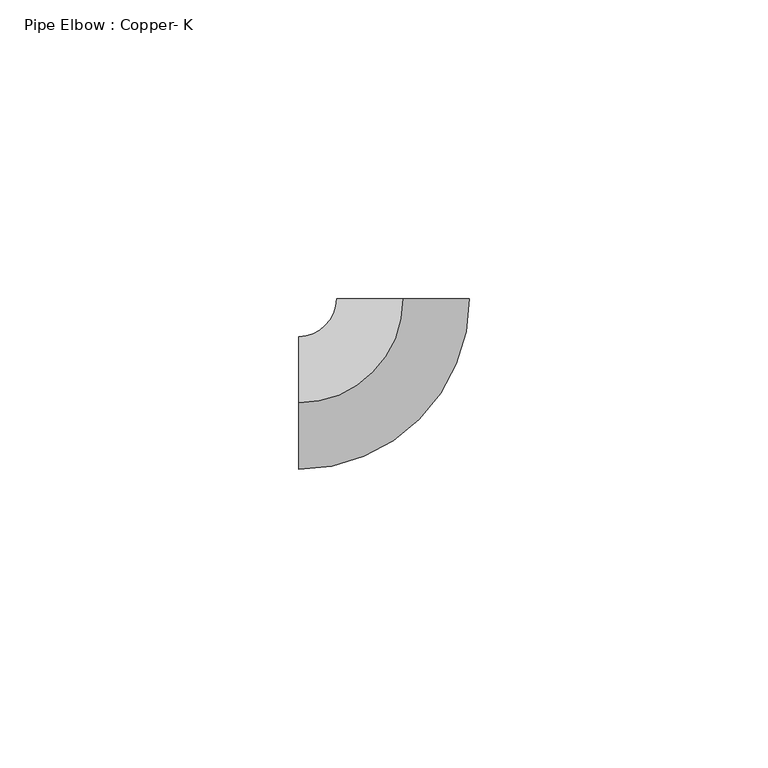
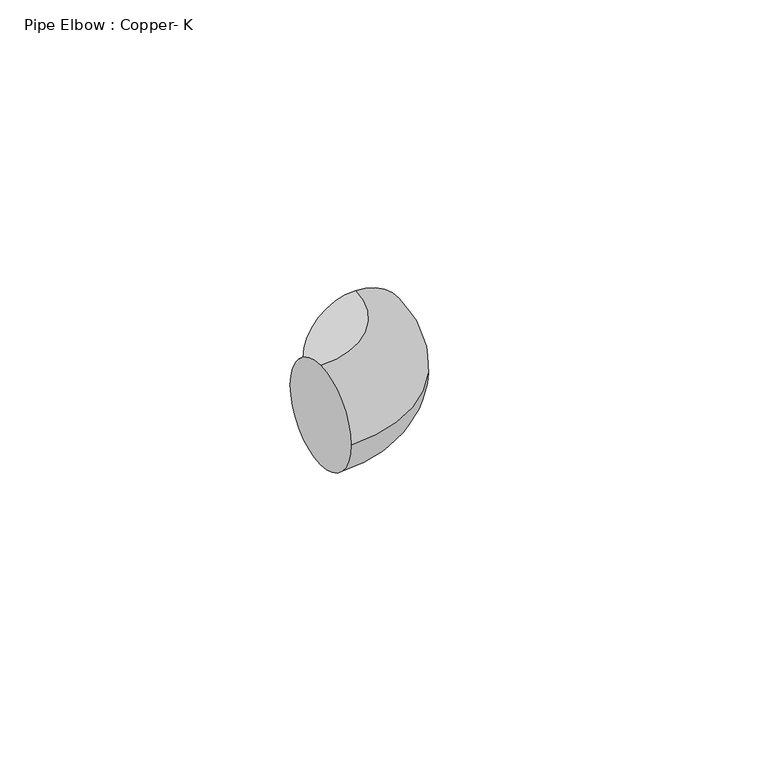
"""IFC4 building model written with IfcOpenShell, lengths in millimetres: pipe fitting geometry, Pipe Elbow : Copper- K."""

from ifc_helpers import new_model, si_unit, point, frame, origin, place, context, project, spatial, circle_curve, ellipse_curve, trimmed, source, transform, mapped, element, save
from ifc_brep_helpers import plane_surface, revolved_surface, advanced_brep


def pipe_elbow_copper_k_17cc7089(model_context):
    return source(origin(), model_context, "Body", "AdvancedBrep", [
        advanced_brep(
        [(-17.463115, 0.0, 11.1125), (-17.463115, 11.1125, 0.0), (-17.463115, 0.0, -11.1125), (-17.463115, -11.1125, 0.0), (-0.000615, 17.4631149, 11.1125), (11.111885, 17.4635063, 0.0), (-0.000615, 17.4631149, -11.1125), (-11.113115, 17.4627236, 0.0)],
        [
            (0, 1, circle_curve(frame((-17.463115, 0.0, 0.0), z_axis=(-1.0, 0.0, 0.0), x_axis=(0.0, 1.0, 0.0)), 11.1125)),
            (1, 2, circle_curve(frame((-17.463115, 0.0, 0.0), z_axis=(-1.0, 0.0, 0.0), x_axis=(0.0, 1.0, 0.0)), 11.1125)),
            (2, 3, circle_curve(frame((-17.463115, 0.0, 0.0), z_axis=(-1.0, 0.0, 0.0), x_axis=(0.0, 1.0, 0.0)), 11.1125)),
            (3, 0, circle_curve(frame((-17.463115, 0.0, 0.0), z_axis=(-1.0, 0.0, 0.0), x_axis=(0.0, 1.0, 0.0)), 11.1125)),
            (4, 5, circle_curve(frame((-0.000615, 17.4631149, 0.0), z_axis=(-3.5215053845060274e-05, 0.99999999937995, 0.0), x_axis=(-0.99999999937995, -3.5215053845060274e-05, 0.0)), 11.1125)),
            (5, 6, circle_curve(frame((-0.000615, 17.4631149, 0.0), z_axis=(-3.5215053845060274e-05, 0.99999999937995, 0.0), x_axis=(-0.99999999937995, -3.5215053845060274e-05, 0.0)), 11.1125)),
            (6, 7, circle_curve(frame((-0.000615, 17.4631149, 0.0), z_axis=(-3.5215053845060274e-05, 0.99999999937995, 0.0), x_axis=(-0.99999999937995, -3.5215053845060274e-05, 0.0)), 11.1125)),
            (7, 4, circle_curve(frame((-0.000615, 17.4631149, 0.0), z_axis=(-3.5215053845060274e-05, 0.99999999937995, 0.0), x_axis=(-0.99999999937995, -3.5215053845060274e-05, 0.0)), 11.1125)),
            (7, 1, circle_curve(frame((-17.463115, 17.4625, 0.0), z_axis=(0.0, 0.0, -1.0), x_axis=(0.0, -1.0, 0.0)), 6.35)),
            (0, 4, circle_curve(frame((-17.463115, 17.4625, 11.1125), z_axis=(0.0, 0.0, 1.0), x_axis=(0.0, -1.0, 0.0)), 17.4625)),
            (6, 2, circle_curve(frame((-17.463115, 17.4625, -11.1125), z_axis=(0.0, 0.0, -1.0), x_axis=(0.0, -1.0, 0.0)), 17.4625)),
            (5, 3, circle_curve(frame((-17.463115, 17.4625, 0.0), z_axis=(0.0, 0.0, -1.0), x_axis=(0.0, -1.0, 0.0)), 28.575)),
        ],
        [
            plane_surface(frame((-17.463115, 0.0, 0.0), z_axis=(-1.0, 0.0, 0.0), x_axis=(0.0, 0.0, 1.0))),
            plane_surface(frame((-0.000615, 17.4631149, 0.0), z_axis=(-3.5215053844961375e-05, 0.99999999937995, 0.0), x_axis=(0.0, 0.0, 1.0))),
            revolved_surface(trimmed(ellipse_curve(frame((-17.463115, 0.0, 0.0), z_axis=(-1.0, 0.0, 0.0), x_axis=(0.0, 1.0, 0.0)), 11.1125, 11.1125), [point((-17.463115, 0.0, 11.1125))], [point((-17.463115, 11.1125, 0.0))], True, "CARTESIAN"), (-17.463115, 17.4625, 0.0), (0.0, 0.0, 1.0)),
            revolved_surface(trimmed(ellipse_curve(frame((-17.463115, 0.0, 0.0), z_axis=(-1.0, 0.0, 0.0), x_axis=(0.0, 1.0, 0.0)), 11.1125, 11.1125), [point((-17.463115, 11.1125, 0.0))], [point((-17.463115, 0.0, -11.1125))], True, "CARTESIAN"), (-17.463115, 17.4625, 0.0), (0.0, 0.0, 1.0)),
            revolved_surface(trimmed(ellipse_curve(frame((-17.463115, 0.0, 0.0), z_axis=(-1.0, 0.0, 0.0), x_axis=(0.0, 1.0, 0.0)), 11.1125, 11.1125), [point((-17.463115, 0.0, -11.1125))], [point((-17.463115, -11.1125, 0.0))], True, "CARTESIAN"), (-17.463115, 17.4625, 0.0), (0.0, 0.0, 1.0)),
            revolved_surface(trimmed(ellipse_curve(frame((-17.463115, 0.0, 0.0), z_axis=(-1.0, 0.0, 0.0), x_axis=(0.0, 1.0, 0.0)), 11.1125, 11.1125), [point((-17.463115, -11.1125, 0.0))], [point((-17.463115, 0.0, 11.1125))], True, "CARTESIAN"), (-17.463115, 17.4625, 0.0), (0.0, 0.0, 1.0)),
        ],
        [
            (0, [[1, 2, 3, 4]]),
            (1, [[5, 6, 7, 8]]),
            (2, [[9, -1, 10, -8]]),
            (3, [[11, -2, -9, -7]]),
            (4, [[12, -3, -11, -6]]),
            (5, [[-10, -4, -12, -5]]),
        ],
    ),
        advanced_brep(
        [(-17.463115, 0.0, 11.1125), (-17.463115, 11.1125, 0.0), (-17.463115, 0.0, -11.1125), (-17.463115, -11.1125, 0.0), (-0.000615, 17.4631149, 11.1125), (11.111885, 17.4635063, 0.0), (-0.000615, 17.4631149, -11.1125), (-11.113115, 17.4627236, 0.0)],
        [
            (0, 1, circle_curve(frame((-17.463115, 0.0, 0.0), z_axis=(-1.0, 0.0, 0.0), x_axis=(0.0, 1.0, 0.0)), 11.1125)),
            (1, 2, circle_curve(frame((-17.463115, 0.0, 0.0), z_axis=(-1.0, 0.0, 0.0), x_axis=(0.0, 1.0, 0.0)), 11.1125)),
            (2, 3, circle_curve(frame((-17.463115, 0.0, 0.0), z_axis=(-1.0, 0.0, 0.0), x_axis=(0.0, 1.0, 0.0)), 11.1125)),
            (3, 0, circle_curve(frame((-17.463115, 0.0, 0.0), z_axis=(-1.0, 0.0, 0.0), x_axis=(0.0, 1.0, 0.0)), 11.1125)),
            (4, 5, circle_curve(frame((-0.000615, 17.4631149, 0.0), z_axis=(-3.5215053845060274e-05, 0.99999999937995, 0.0), x_axis=(-0.99999999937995, -3.5215053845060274e-05, 0.0)), 11.1125)),
            (5, 6, circle_curve(frame((-0.000615, 17.4631149, 0.0), z_axis=(-3.5215053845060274e-05, 0.99999999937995, 0.0), x_axis=(-0.99999999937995, -3.5215053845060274e-05, 0.0)), 11.1125)),
            (6, 7, circle_curve(frame((-0.000615, 17.4631149, 0.0), z_axis=(-3.5215053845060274e-05, 0.99999999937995, 0.0), x_axis=(-0.99999999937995, -3.5215053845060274e-05, 0.0)), 11.1125)),
            (7, 4, circle_curve(frame((-0.000615, 17.4631149, 0.0), z_axis=(-3.5215053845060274e-05, 0.99999999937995, 0.0), x_axis=(-0.99999999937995, -3.5215053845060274e-05, 0.0)), 11.1125)),
            (7, 1, circle_curve(frame((-17.463115, 17.4625, 0.0), z_axis=(0.0, 0.0, -1.0), x_axis=(0.0, -1.0, 0.0)), 6.35)),
            (0, 4, circle_curve(frame((-17.463115, 17.4625, 11.1125), z_axis=(0.0, 0.0, 1.0), x_axis=(0.0, -1.0, 0.0)), 17.4625)),
            (6, 2, circle_curve(frame((-17.463115, 17.4625, -11.1125), z_axis=(0.0, 0.0, -1.0), x_axis=(0.0, -1.0, 0.0)), 17.4625)),
            (5, 3, circle_curve(frame((-17.463115, 17.4625, 0.0), z_axis=(0.0, 0.0, -1.0), x_axis=(0.0, -1.0, 0.0)), 28.575)),
        ],
        [
            plane_surface(frame((-17.463115, 0.0, 0.0), z_axis=(-1.0, 0.0, 0.0), x_axis=(0.0, 0.0, 1.0))),
            plane_surface(frame((-0.000615, 17.4631149, 0.0), z_axis=(-3.5215053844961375e-05, 0.99999999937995, 0.0), x_axis=(0.0, 0.0, 1.0))),
            revolved_surface(trimmed(ellipse_curve(frame((-17.463115, 0.0, 0.0), z_axis=(-1.0, 0.0, 0.0), x_axis=(0.0, 1.0, 0.0)), 11.1125, 11.1125), [point((-17.463115, 0.0, 11.1125))], [point((-17.463115, 11.1125, 0.0))], True, "CARTESIAN"), (-17.463115, 17.4625, 0.0), (0.0, 0.0, 1.0)),
            revolved_surface(trimmed(ellipse_curve(frame((-17.463115, 0.0, 0.0), z_axis=(-1.0, 0.0, 0.0), x_axis=(0.0, 1.0, 0.0)), 11.1125, 11.1125), [point((-17.463115, 11.1125, 0.0))], [point((-17.463115, 0.0, -11.1125))], True, "CARTESIAN"), (-17.463115, 17.4625, 0.0), (0.0, 0.0, 1.0)),
            revolved_surface(trimmed(ellipse_curve(frame((-17.463115, 0.0, 0.0), z_axis=(-1.0, 0.0, 0.0), x_axis=(0.0, 1.0, 0.0)), 11.1125, 11.1125), [point((-17.463115, 0.0, -11.1125))], [point((-17.463115, -11.1125, 0.0))], True, "CARTESIAN"), (-17.463115, 17.4625, 0.0), (0.0, 0.0, 1.0)),
            revolved_surface(trimmed(ellipse_curve(frame((-17.463115, 0.0, 0.0), z_axis=(-1.0, 0.0, 0.0), x_axis=(0.0, 1.0, 0.0)), 11.1125, 11.1125), [point((-17.463115, -11.1125, 0.0))], [point((-17.463115, 0.0, 11.1125))], True, "CARTESIAN"), (-17.463115, 17.4625, 0.0), (0.0, 0.0, 1.0)),
        ],
        [
            (0, [[1, 2, 3, 4]]),
            (1, [[5, 6, 7, 8]]),
            (2, [[9, -1, 10, -8]]),
            (3, [[11, -2, -9, -7]]),
            (4, [[12, -3, -11, -6]]),
            (5, [[-10, -4, -12, -5]]),
        ],
    ),
    ])


if __name__ == "__main__":
    model = new_model("IFC4")
    model_context = context("Model", 3, world=origin())
    ifc_project = project(units=[si_unit("LENGTHUNIT", "METRE", prefix="MILLI")], contexts=[model_context])
    site = spatial("IfcSite", under=ifc_project)
    building = spatial("IfcBuilding", under=site)
    placement = place(None, origin())
    pipe_elbow_copper_k_shape = pipe_elbow_copper_k_17cc7089(model_context)
    element("IfcPipeFitting", 1, ObjectType="Pipe Elbow : Copper- K", at=placement, inside=building, context=model_context, shape_type="MappedRepresentation", body=[
        mapped(pipe_elbow_copper_k_shape, transform((0.0, 0.0, 0.0), x_axis=(1.0, 0.0, 0.0), y_axis=(0.0, 1.0, 0.0), z_axis=(0.0, 0.0, 1.0))),
    ])
    save(model, "model.ifc")
